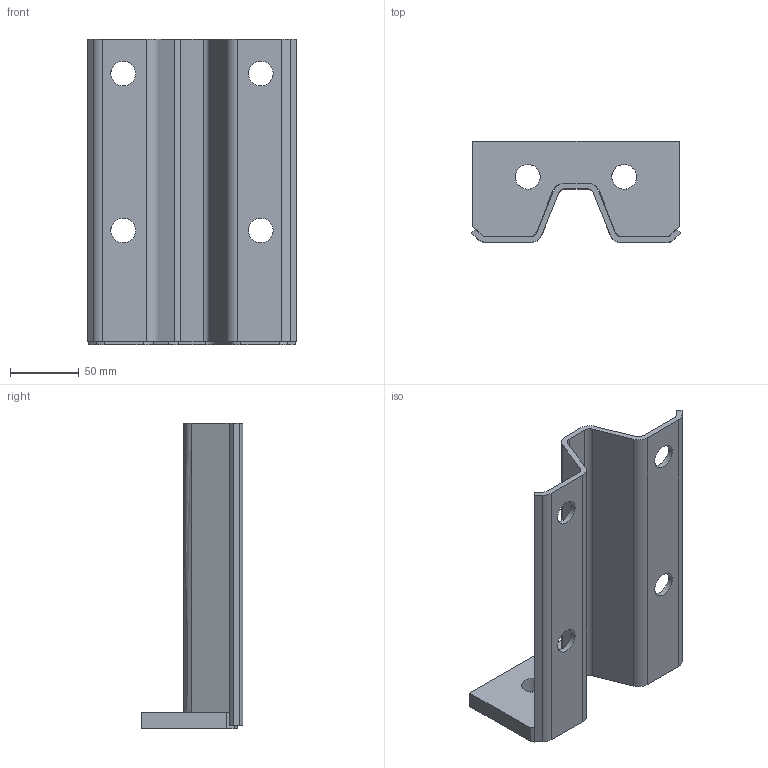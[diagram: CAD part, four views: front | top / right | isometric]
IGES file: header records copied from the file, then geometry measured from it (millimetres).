
Global section: file name: B265W70; native system: Autodesk RealDWG; preprocessor: Autodesk Translation Framework DWG producer (atf_dwg_producer); organization: unknown; date: 20230703.111036; units: centimetre
Bounding box: 151.72 x 74 x 222 mm (x, y, z)
Volume: 271155.4 mm3; surface area: 112895.7 mm2
Topology: 1 solids, 1 shells, 54 faces, 166 edges, 110 vertices
Faces by surface type: bspline 54
